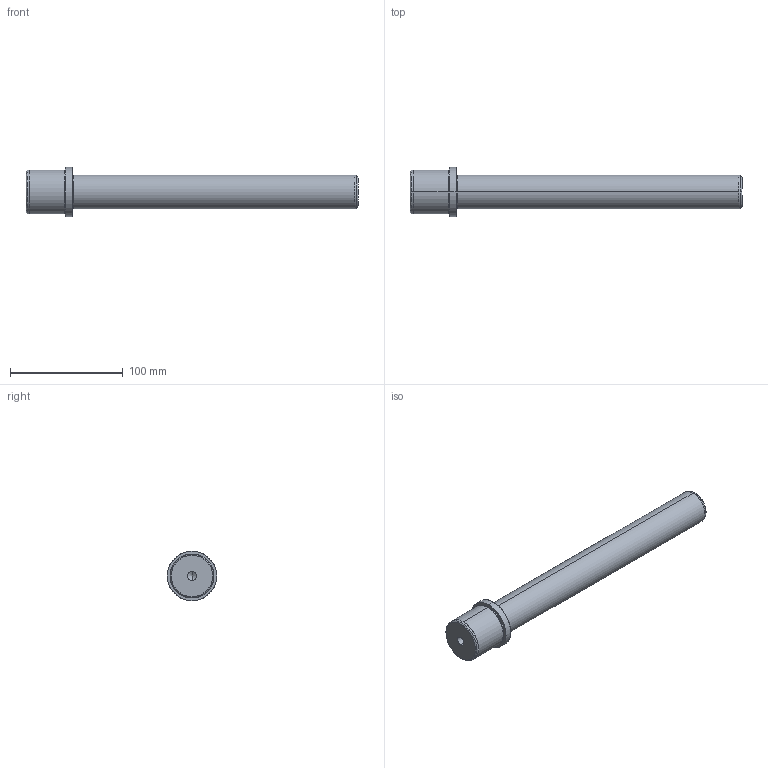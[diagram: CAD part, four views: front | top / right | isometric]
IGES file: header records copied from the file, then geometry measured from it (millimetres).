
Start section: SolidWorks IGES file using analytic representation for surfaces
Global section: file name: C:\Documents and Settings\kalite-mail\Desktop\IGS\D05\D05 - 30x260x35.IGS; native system: SolidWorks 2008; preprocessor: SolidWorks 2008; author: kalite-mail; date: 080617.111331; units: millimetre
Bounding box: 295 x 44 x 44 mm (x, y, z)
Surface area: 32287.2 mm2 (no closed solid volume)
Topology: 0 solids, 0 shells, 29 faces, 856 edges, 854 vertices
Faces by surface type: revolution 20, bspline 9
